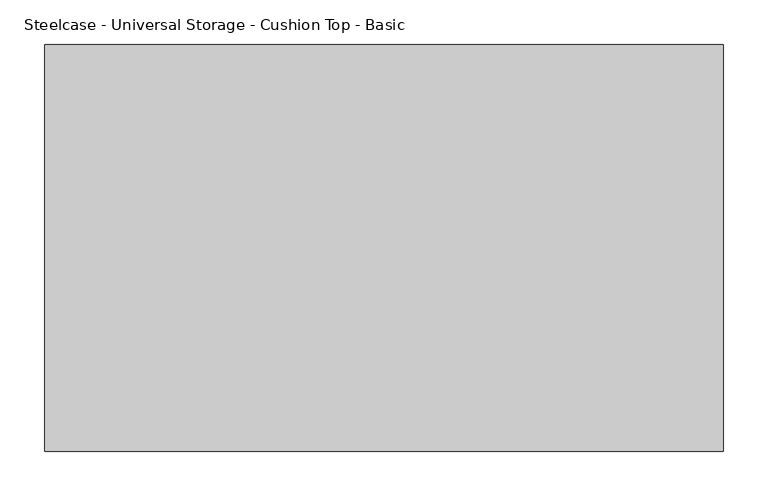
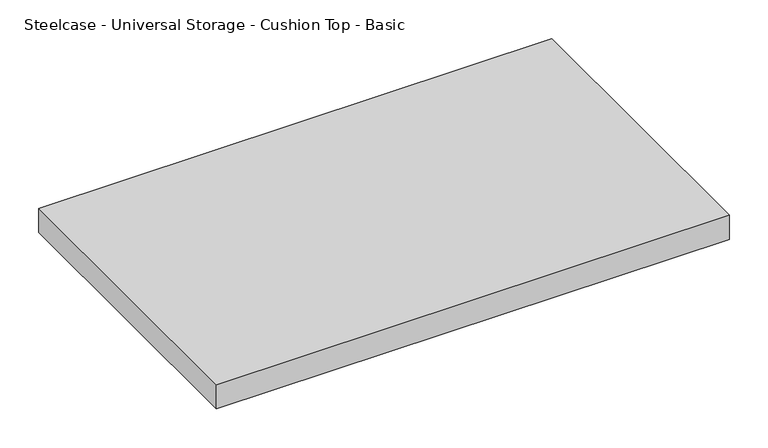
"""IFC4 building model written with IfcOpenShell, lengths in millimetres: furniture geometry, Steelcase - Universal Storage - Cushion Top - Basic : Lateral File - 18D x 30W."""

from ifc_helpers import new_model, si_unit, frame, origin, place, context, project, spatial, polyline, outline, extrude, source, transform, mapped, element, save


def steelcase_universal_storage_cushion_top_basic_933d4c38(model_context):
    return source(origin(), model_context, "Body", "SweptSolid", [
        extrude(outline(polyline([(762.0, 0.0), (762.0, -457.2), (0.0, -457.2), (0.0, 0.0), (762.0, 0.0)])), frame((0.0, 0.0, 533.4), z_axis=(0.0, 0.0, 1.0), x_axis=(1.0, 0.0, 0.0)), (0.0, 0.0, 1.0), 38.0999971),
    ])


if __name__ == "__main__":
    model = new_model("IFC4")
    model_context = context("Model", 3, world=origin())
    ifc_project = project(units=[si_unit("LENGTHUNIT", "METRE", prefix="MILLI")], contexts=[model_context])
    site = spatial("IfcSite", under=ifc_project)
    building = spatial("IfcBuilding", under=site)
    placement = place(None, origin())
    steelcase_universal_storage_cushion_top_basic_shape = steelcase_universal_storage_cushion_top_basic_933d4c38(model_context)
    element("IfcFurniture", 1, ObjectType="Steelcase - Universal Storage - Cushion Top - Basic : Lateral File - 18D x 30W", at=placement, inside=building, context=model_context, shape_type="MappedRepresentation", body=[
        mapped(steelcase_universal_storage_cushion_top_basic_shape, transform((0.0, 0.0, 0.0), x_axis=(1.0, 0.0, 0.0), y_axis=(0.0, 1.0, 0.0), z_axis=(0.0, 0.0, 1.0))),
    ])
    save(model, "model.ifc")
